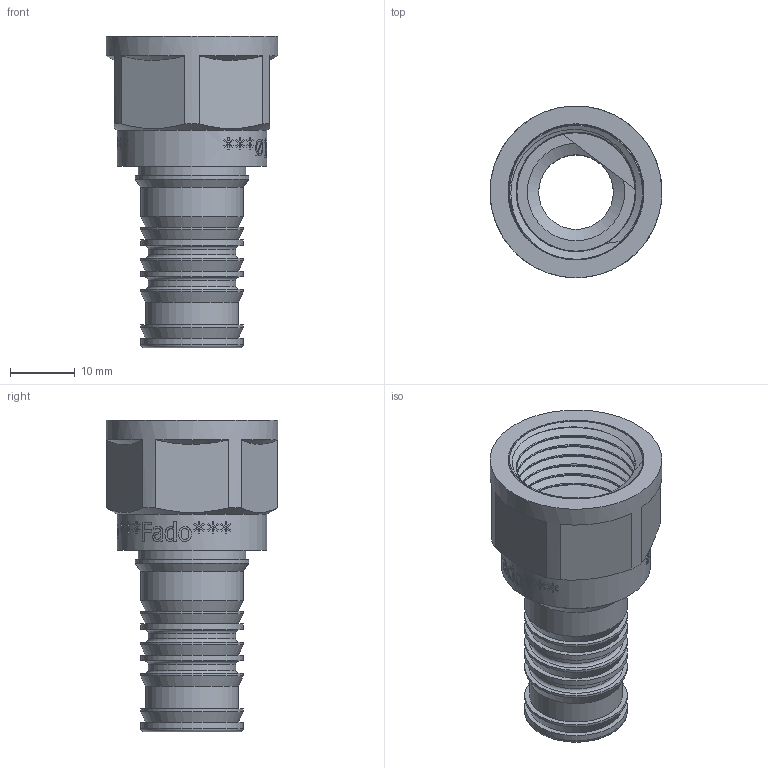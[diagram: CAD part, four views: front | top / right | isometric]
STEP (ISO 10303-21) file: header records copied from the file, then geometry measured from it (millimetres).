
FILE_DESCRIPTION(/* description */ (''),/* implementation_level */ '2;1');
FILE_NAME(/* name */ 'C:\Users\Doom\Desktop\Фадотех\Пресс\HDM13 15.01.2020\HDM13 15.01.2020.stp',/* time_stamp */ '2022-08-11T15:51:21+03:00',/* author */ ('Doom'),/* organization */ (''),/* preprocessor_version */ 'ST-DEVELOPER v18',/* originating_system */ 'Autodesk Inventor 2020',/* authorisation */ '');
FILE_SCHEMA (('AUTOMOTIVE_DESIGN { 1 0 10303 214 3 1 1 }'));
Length unit declared in the file: millimetre
Products named in the file (1): 16 Model 18.12.2019
Bounding box: 26.5 x 26.49 x 48 mm (x, y, z)
Volume: 6832.4 mm3; surface area: 8474.4 mm2
Topology: 2 solids, 2 shells, 497 faces, 1391 edges, 940 vertices
Faces by surface type: bspline 311, plane 106, cylinder 59, cone 16, torus 5
Full cylindrical faces by diameter (mm): 11.5 x1, 13.5 x2, 14.3 x1, 15 x1, 15.8 x8, 16.6 x1, 17.5 x1, 18.26 x6, 20.95 x2, 23 x1, 26.5 x1
Entity records: 25214 total; most frequent: CARTESIAN_POINT 14352, ORIENTED_EDGE 2774, EDGE_CURVE 1387, DIRECTION 1326, VERTEX_POINT 938, B_SPLINE_CURVE_WITH_KNOTS 645, EDGE_LOOP 545, FACE_OUTER_BOUND 497
